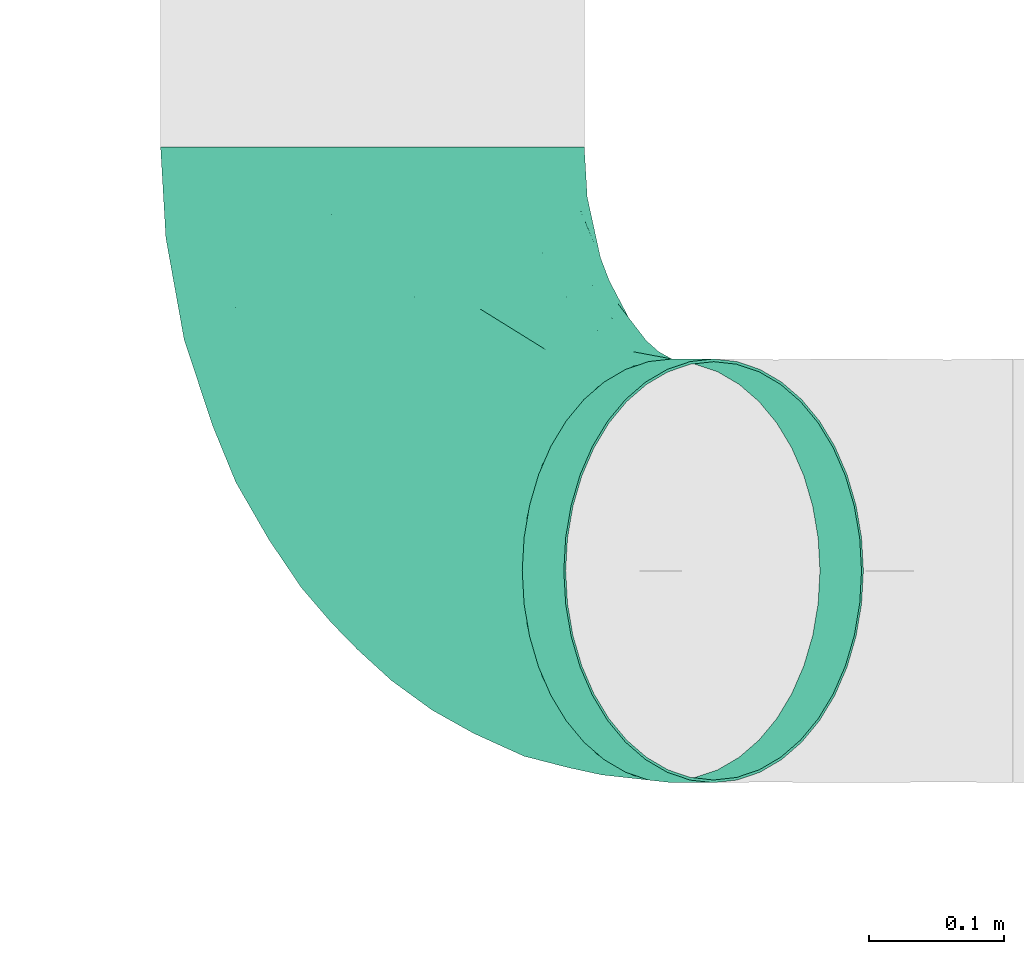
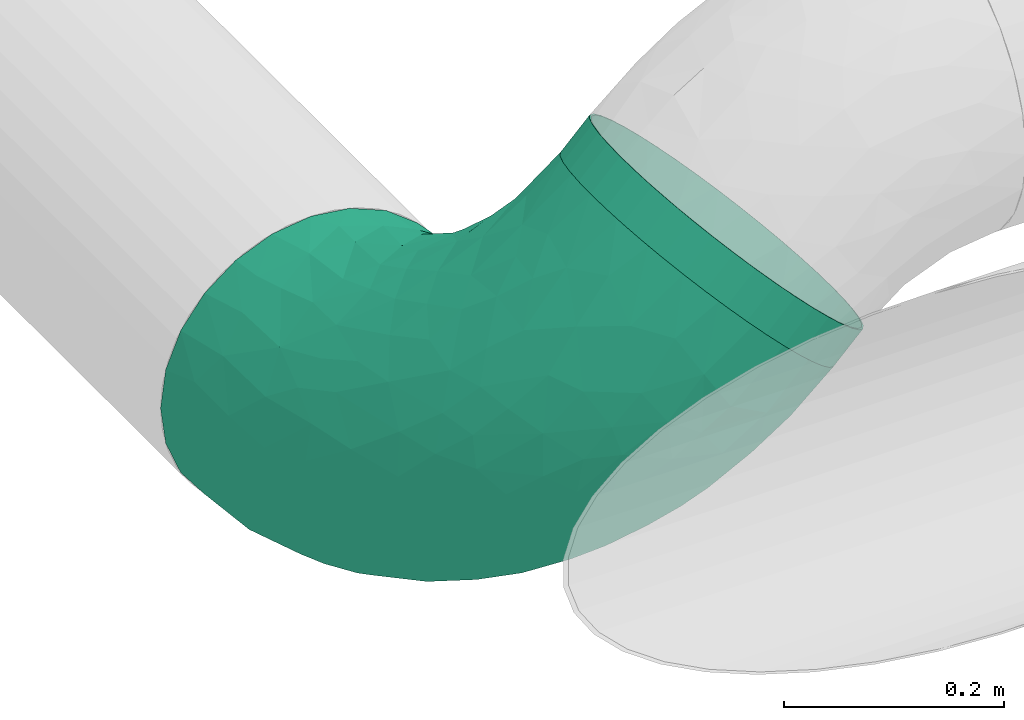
# One storey, part 14 of 36: 1 flow fitting, 1 flow segment.
"""IFC2X3 building model written with IfcOpenShell, lengths in millimetres."""

from ifc_helpers import new_model, entity, si_unit, converted_unit, derived_unit, direction, frame, origin_with_axes, origin_2d_with_axis, place, context, subcontext, project, spatial, hollow_circle, extrude, open_shell, surface_model, source, transform, mapped, type_object, element, save


model = new_model("IFC2X3")

# Units and contexts
model_context = context("Model", 3, precision=0.01, world=frame((0.0, 4.29681676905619e-09, 0.0)), true_north=direction((4.01073788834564e-13, 1.0)))
plan_context = context("Plan", 3, precision=0.01, world=frame((0.0, 4.29681676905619e-09, 0.0)), true_north=direction((4.01073788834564e-13, 1.0)))
body_context = subcontext(model_context, "Body", "Model", "MODEL_VIEW")
ifc_project = project(units=[converted_unit("PLANEANGLEUNIT", "DEGREE", entity("IfcPositiveLengthMeasure", 0.0174532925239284), si_unit("PLANEANGLEUNIT", "RADIAN"), dimensions=[0, 0, 0, 0, 0, 0, 0]), si_unit("AREAUNIT", "SQUARE_METRE"), si_unit("LENGTHUNIT", "METRE", prefix="MILLI"), si_unit("MASSUNIT", "GRAM", prefix="KILO"), si_unit("POWERUNIT", "WATT"), si_unit("PRESSUREUNIT", "PASCAL"), si_unit("FORCEUNIT", "NEWTON", prefix="KILO"), si_unit("ELECTRICCURRENTUNIT", "AMPERE"), si_unit("THERMODYNAMICTEMPERATUREUNIT", "DEGREE_CELSIUS"), si_unit("TIMEUNIT", "SECOND"), si_unit("VOLUMEUNIT", "CUBIC_METRE"), derived_unit("LINEARVELOCITYUNIT", [(si_unit("LENGTHUNIT", "METRE"), 1), (si_unit("TIMEUNIT", "SECOND"), -1)]), derived_unit("VOLUMETRICFLOWRATEUNIT", [(si_unit("VOLUMEUNIT", "CUBIC_METRE"), 1), (si_unit("TIMEUNIT", "SECOND"), -1)]), derived_unit("THERMALTRANSMITTANCEUNIT", [(si_unit("POWERUNIT", "WATT"), 1), (si_unit("THERMODYNAMICTEMPERATUREUNIT", "KELVIN"), -1), (si_unit("AREAUNIT", "SQUARE_METRE"), -1)])], contexts=[model_context, plan_context])

# Site, building, storey
site_placement = place(None, frame((0.0, -4.29681676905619e-09, 0.0), z_axis=(0.0, 0.0, 1.0), x_axis=(1.0, 0.0, 0.0)))
site = spatial("IfcSite", under=ifc_project, at=site_placement, CompositionType="ELEMENT")
building_placement = place(site_placement, frame((0.0, 4.29681676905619e-09, 0.0), z_axis=(0.0, 0.0, 1.0), x_axis=(1.0, 0.0, 0.0)))
building = spatial("IfcBuilding", under=site, at=building_placement, Name="mc-building", CompositionType="ELEMENT")
storey_placement = place(building_placement, frame((0.0, 0.0, 204000.0), z_axis=(0.0, 0.0, 1.0), x_axis=(1.0, 0.0, 0.0)))
storey = spatial("IfcBuildingStorey", under=building, at=storey_placement, Name="Nivå D", CompositionType="ELEMENT", Elevation=204000.0)

# Flow fitting
duct_fitting_type = type_object("IfcDuctFittingType", Name="magicirc_elbow_full_radius_001", PredefinedType="BEND")
shared_shape_1 = source(origin_with_axes(), body_context, "Body", "SurfaceModel", [
    surface_model("IfcShellBasedSurfaceModel", [(-315.0, 78.75, -136.39901), (-315.0, 40.764, -152.13332), (-315.0, 0.0, -157.5), (-315.0, 136.39901, -78.75), (-315.0, -40.764, -152.13332), (-315.0, 111.36932, -111.36932), (-315.0, -157.5, 0.0), (-315.0, -152.13332, 40.764), (-315.0, -111.36932, -111.36932), (-315.0, -152.13332, -40.764), (-315.0, -78.75, -136.39901), (-315.0, -136.39901, -78.75), (-315.0, 152.13332, -40.764), (-315.0, 152.13332, 40.764), (-315.0, 157.5, 0.0), (-315.0, 111.36932, 111.36932), (-315.0, 136.39901, 78.75), (-315.0, 78.75, 136.39901), (-315.0, 40.764, 152.13332), (-315.0, -111.36932, 111.36932), (-315.0, -78.75, 136.39901), (-315.0, -136.39901, 78.75), (-315.0, 0.0, 157.5), (-315.0, -40.764, 152.13332), (0.0, 315.0, -157.5), (-40.764, 315.0, -152.13332), (-78.75, 315.0, -136.39901), (-136.39901, 315.0, -78.75), (40.764, 315.0, -152.13332), (-111.36932, 315.0, -111.36932), (152.13332, 315.0, 40.764), (157.5, 315.0, 0.0), (78.75, 315.0, -136.39901), (152.13332, 315.0, -40.764), (111.36932, 315.0, -111.36932), (136.39901, 315.0, -78.75), (-152.13332, 315.0, -40.764), (-157.5, 315.0, 0.0), (-152.13332, 315.0, 40.764), (-111.36932, 315.0, 111.36932), (-136.39901, 315.0, 78.75), (-78.75, 315.0, 136.39901), (-40.764, 315.0, 152.13332), (136.39901, 315.0, 78.75), (78.75, 315.0, 136.39901), (111.36932, 315.0, 111.36932), (0.0, 315.0, 157.5), (40.764, 315.0, 152.13332), (-275.78673, -154.41385, 0.0), (-241.08472, -151.68274, 0.0), (-252.44974, -146.30358, 46.35165), (-187.41523, 212.23477, 44.18498), (-179.01149, 203.81739, 73.41005), (-160.11821, 234.12054, 71.62405), (-259.10789, -29.29167, 153.83069), (-244.91752, 10.986, 157.47118), (-224.67128, -127.46551, 78.41541), (-275.62484, -128.51884, 88.53098), (-239.58521, -68.78712, 137.8804), (-254.44946, -102.17277, 115.99392), (-204.97493, -89.72227, 117.91769), (-198.20454, -136.55993, 43.33884), (-148.94098, -119.38248, 47.89313), (-158.86886, -110.344, 75.73779), (39.78686, 15.52969, 50.216), (50.02524, 48.95167, 78.24133), (16.56876, 9.92294, 80.17525), (-156.73954, -92.78717, 99.09316), (-102.51279, -78.92253, 85.02595), (-126.30713, -72.38133, 106.65328), (-238.05749, 163.98734, 60.26168), (-237.20027, 147.2055, 88.84905), (-203.90523, 171.05831, 84.0913), (-99.39676, -101.96273, 31.06146), (-68.88048, -86.63056, 0.0), (-64.76022, -82.94549, 27.4714), (-194.76506, -28.32949, 149.7576), (24.59365, -9.6905, 28.83462), (43.18424, 9.08176, 0.0), (-28.15076, 147.0542, 156.53616), (-57.62232, 187.52251, 155.03024), (-72.61201, 106.84341, 157.43567), (-100.48949, -106.00058, 0.0), (-134.73948, -120.1874, 0.0), (-260.04347, 89.83524, 133.7152), (-237.26991, 125.02171, 112.97999), (-280.21215, 121.62894, 103.72153), (68.21928, 256.1901, 139.71452), (77.7719, 189.04071, 123.71299), (102.31809, 243.42041, 114.24978), (67.84442, 49.60938, 45.33346), (67.26053, 37.27147, 0.0), (90.55316, 77.99056, 29.40563), (-274.83669, 157.26153, 40.40661), (-274.67132, 145.30132, 71.02739), (-245.58363, 170.09727, 31.44943), (-158.01119, 282.57516, 29.57871), (-146.25125, 266.67126, 73.17914), (-201.21156, 99.95025, 140.23251), (-168.00076, 243.85557, 42.38557), (-236.25001, 178.601, 0.0), (-214.36106, 188.34463, 36.42869), (-203.63068, 203.63068, 0.0), (-162.86668, 274.236, 0.0), (-27.4795, -1.48331, 110.13927), (-51.96296, -33.03019, 100.52286), (-24.99652, -31.32094, 78.21218), (112.08788, 138.61937, 56.34637), (125.1619, 203.64453, 74.00759), (104.09929, 190.16434, 99.24634), (-263.88667, 52.46181, 150.1563), (6.28024, -18.02273, 54.59081), (-32.47692, -55.63747, 44.65165), (-205.03709, -143.02847, 0.0), (-151.50955, 215.6642, 97.49478), (-169.72394, 180.80582, 105.18325), (-137.80003, 192.65821, 121.95203), (-131.16131, 105.91152, 153.19188), (-137.52005, 135.51481, 144.53218), (-172.83727, 124.27225, 137.32768), (128.84491, 263.57392, 86.20478), (114.57644, 123.92915, 27.08781), (106.00058, 100.48949, 0.0), (131.75884, 176.48085, 38.42713), (143.02847, 205.03709, 0.0), (146.29642, 252.33829, 46.32598), (28.40156, 269.10441, 154.32704), (154.41385, 275.78673, 0.0), (-22.22564, 41.69116, 132.2609), (16.69324, 39.94323, 106.64404), (16.31975, 90.96952, 132.6244), (-52.03205, 254.37949, 150.89421), (153.88948, 315.0, 27.4246), (53.20704, 125.91085, 122.5592), (88.92651, 138.61761, 94.82216), (-274.236, 162.86668, 0.0), (-178.601, 236.25001, 0.0), (-168.81595, 14.50737, 156.32976), (-134.58592, -17.78306, 144.11351), (-96.06327, 24.61756, 149.79173), (-95.47965, 208.90923, 140.49399), (-78.67054, 72.23496, 155.69115), (-107.10628, 82.90122, 157.46314), (-89.91469, 266.26589, 132.78659), (-121.60296, 277.73788, 104.26598), (-11.78088, 260.70674, 157.34621), (-227.60537, 69.76326, 147.71238), (-195.7657, -66.84676, 132.57527), (-17.98791, 203.53807, 157.4841), (-60.53883, -60.45246, 74.88575), (-91.07399, -51.75682, 107.92189), (-197.57809, -110.08585, 94.49261), (-125.81015, 232.97235, 113.88738), (64.56465, 93.01368, 96.19249), (16.83328, 142.0015, 145.94195), (-22.72801, 90.93072, 148.21445), (-99.35511, 153.79, 150.7066), (57.69895, 213.45149, 140.44432), (29.76385, 212.9342, 151.06665), (41.25613, 174.00975, 141.99688), (81.24399, 84.86245, 65.51403), (-80.6457, -84.21175, 54.10058), (-119.42936, -101.75196, 60.63924), (-223.54613, 37.74243, 155.80439), (-168.22432, 88.17595, 150.9854), (-187.52253, 57.62232, 155.03024), (-196.7276, 148.24729, 112.17066), (-145.12836, 64.74974, 156.99994), (-62.1104, 49.45871, 148.77454), (-78.29466, 3.48913, 137.81789), (120.1874, 134.73948, 0.0), (134.3742, 168.98947, 0.0), (-124.07067, 168.52736, 138.84177), (0.02902, 171.95264, 154.42202), (-155.24181, 155.24181, 129.8968), (-73.90672, -22.7783, 121.68574), (-153.67663, -57.07317, 128.87412), (-113.78636, -39.32142, 127.49832), (-115.01886, 47.08507, 156.31037), (86.63056, 68.88048, 0.0), (-9.08176, -43.18424, 0.0), (19.10795, -19.10795, 0.0), (-168.98947, -134.3742, 0.0), (-37.27147, -67.26053, 0.0), (-315.0, -153.88948, 27.4246), (151.68274, 241.08472, 0.0), (-255.73532, 122.56558, -109.04479), (-214.29406, 93.80227, -140.10177), (-163.84149, 105.49727, -146.95596), (-183.82971, 59.98852, -154.94923), (-192.31906, 130.25635, -126.94074), (-214.67055, 186.05827, -42.62213), (-186.74496, 194.75879, -73.69482), (-239.00567, 164.73426, -57.54591), (84.53784, 80.13877, -52.6065), (-261.00954, 11.80363, -157.34285), (-250.44216, -29.83398, -153.37151), (-268.19836, 89.9699, -132.49512), (18.83806, 119.2151, -140.07242), (49.91254, 115.17721, -120.81771), (12.06978, 71.6341, -127.34592), (-248.07962, 169.80005, -27.2725), (-275.80747, 156.39383, -42.62213), (-196.40633, -137.77993, -37.15996), (-145.81166, -120.76195, -39.54807), (29.83399, 250.44214, -153.37151), (-188.19275, 214.15275, -37.45863), (-263.66616, 144.09279, -78.48806), (-189.95567, 165.06391, -102.28747), (43.89547, 65.88084, -99.75423), (78.16417, 108.21393, -90.03536), (-249.49402, 51.93128, -151.25871), (-315.0, -153.88948, -27.4246), (-247.57479, -102.2991, -114.91111), (-172.13573, -94.4716, -103.54526), (-203.64451, -125.1619, -74.00758), (-15.43872, -39.86246, -49.86848), (-49.56463, -70.60072, -36.85181), (-48.59952, -58.5205, -64.27403), (-252.33829, -146.29642, -46.32598), (-150.4225, 203.44707, -106.34238), (-263.57392, -128.84491, -86.20478), (-270.63117, -67.13499, -141.2369), (-215.39001, -68.32685, -135.04042), (102.2991, 247.57479, -114.91111), (-84.30908, -81.65653, -64.10818), (-91.06615, -97.14589, -32.77134), (94.4716, 172.13573, -103.54526), (68.32685, 215.39, -135.04042), (-163.2898, 237.20307, -62.64493), (-225.79476, 144.1207, -99.31867), (-157.79862, 273.70924, -39.50029), (-170.19986, 243.41794, -35.38905), (128.35851, 166.25059, -38.79853), (111.33052, 119.84284, -33.59532), (107.99483, 139.73378, -66.29524), (-159.64305, 170.07843, -119.54587), (-180.81821, -30.01596, -147.51371), (-145.25442, 275.15448, -70.89775), (-89.88491, 264.92544, -132.9879), (-44.17449, 280.59439, -151.79735), (-59.757, 315.0, -144.26616), (9.31111, -25.05617, -28.4426), (53.009, 25.90805, -37.46377), (-11.80362, 261.00954, -157.34285), (67.13499, 270.63117, -141.2369), (-92.6263, 92.62629, -157.49916), (-118.96141, 121.25661, -152.49801), (-64.39537, 156.51032, -156.4116), (-60.182, 62.8574, -151.37938), (-107.20835, 12.13665, -148.56572), (-115.08393, 49.61455, -156.55155), (128.84491, 263.57392, -86.20478), (142.02096, 205.05236, -27.6146), (29.81946, 180.40381, -147.52592), (-13.4149, 195.22557, -157.2133), (146.29642, 252.33829, -46.32598), (-37.40914, -4.7821, -114.20577), (-6.41858, -12.60422, -81.0379), (-50.98723, -38.43118, -94.2951), (-120.93204, -103.51151, -58.28641), (-96.41026, 201.21637, -141.79045), (-123.09172, 250.65074, -110.13461), (-121.89335, 288.06679, -101.98259), (-63.35086, 202.24527, -152.53228), (-222.08454, -6.89853, -156.21984), (125.1619, 203.64451, -74.00758), (-51.91054, 246.85668, -151.45138), (-161.36987, -115.89647, -67.15691), (61.05333, 59.83208, -73.20753), (-114.28437, -21.13487, -137.6727), (-72.08976, 0.21966, -134.09767), (2.17272, 150.10188, -151.66391), (-117.40709, -78.70988, -95.14777), (15.79609, -8.49924, -54.72897), (67.75002, 163.86592, -124.46846), (-163.86592, -67.75002, -124.46846), (-128.02491, 185.93738, -130.75264), (-108.32235, 160.67293, -146.80015), (-225.72616, 27.09586, -156.91411), (-54.59519, 105.68211, -156.33724), (-32.5663, 145.08674, -156.82141), (-145.37889, -8.42453, -149.28396), (-136.98265, 81.1657, -156.07826), (-156.31197, 39.80053, -157.47731), (-31.52679, 31.52678, -132.01846), (-143.53867, 148.20903, -138.06198), (-187.31767, 14.48755, -157.07868), (-19.17494, 108.97533, -150.78529), (2.87334, 23.19904, -105.99183), (32.99767, 23.1947, -73.77925), (-74.47057, -30.27504, -116.67674), (-115.17722, -49.91255, -120.81771), (153.88948, 315.0, -27.4246)], [open_shell([[[0, 1, 2]], [[3, 0, 2]], [[4, 3, 2]], [[5, 0, 3]], [[3, 6, 7]], [[8, 9, 10]], [[4, 10, 6]], [[11, 9, 8]], [[6, 10, 9]], [[6, 3, 4]], [[7, 12, 3]], [[13, 14, 15]], [[16, 13, 15]], [[17, 15, 7]], [[7, 15, 14]], [[17, 7, 18]], [[19, 20, 21]], [[7, 21, 22]], [[23, 22, 20]], [[21, 20, 22]], [[22, 18, 7]], [[12, 7, 14]], [[24, 25, 26]], [[24, 26, 27]], [[24, 27, 28]], [[27, 26, 29]], [[30, 31, 27]], [[32, 33, 34]], [[31, 32, 28]], [[34, 33, 35]], [[33, 32, 31]], [[28, 27, 31]], [[27, 36, 37]], [[27, 38, 39]], [[39, 38, 40]], [[30, 39, 41]], [[39, 30, 27]], [[41, 42, 30]], [[43, 44, 45]], [[46, 43, 30]], [[44, 46, 47]], [[46, 44, 43]], [[30, 42, 46]], [[38, 27, 37]], [[48, 49, 50]], [[51, 52, 53]], [[22, 54, 55]], [[56, 57, 50]], [[58, 59, 60]], [[23, 20, 58]], [[61, 62, 63]], [[64, 65, 66]], [[67, 68, 69]], [[70, 71, 72]], [[20, 59, 58]], [[73, 74, 75]], [[76, 54, 58]], [[64, 77, 78]], [[79, 80, 81]], [[50, 61, 56]], [[82, 73, 83]], [[84, 85, 86]], [[87, 88, 89]], [[22, 55, 18]], [[90, 91, 92]], [[93, 94, 70]], [[70, 95, 93]], [[96, 97, 38]], [[85, 84, 98]], [[99, 51, 53]], [[71, 70, 94]], [[100, 101, 102]], [[96, 103, 99]], [[14, 13, 93]], [[94, 93, 13]], [[64, 90, 65]], [[104, 105, 106]], [[107, 108, 109]], [[17, 110, 84]], [[111, 106, 112]], [[113, 50, 49]], [[20, 19, 59]], [[114, 115, 116]], [[117, 118, 119]], [[89, 44, 87]], [[19, 21, 57]], [[120, 89, 108]], [[121, 92, 122]], [[123, 124, 125]], [[46, 126, 47]], [[125, 127, 30]], [[16, 15, 86]], [[128, 129, 130]], [[120, 43, 45]], [[43, 125, 30]], [[123, 108, 107]], [[42, 41, 131]], [[127, 31, 132]], [[133, 134, 88]], [[93, 95, 135]], [[21, 7, 50]], [[99, 103, 136]], [[137, 138, 139]], [[102, 101, 51]], [[103, 96, 37]], [[140, 80, 131]], [[72, 101, 70]], [[51, 136, 102]], [[141, 81, 142]], [[131, 143, 140]], [[38, 97, 40]], [[39, 40, 144]], [[89, 45, 44]], [[145, 42, 131]], [[16, 94, 13]], [[41, 143, 131]], [[145, 46, 42]], [[15, 17, 84]], [[137, 55, 76]], [[23, 54, 22]], [[146, 84, 110]], [[58, 60, 147]], [[44, 47, 87]], [[88, 134, 109]], [[41, 39, 143]], [[80, 79, 148]], [[149, 150, 68]], [[67, 151, 63]], [[17, 18, 110]], [[84, 146, 98]], [[120, 125, 43]], [[125, 108, 123]], [[50, 7, 48]], [[50, 113, 61]], [[53, 52, 114]], [[144, 97, 152]], [[153, 129, 65]], [[111, 64, 66]], [[57, 59, 19]], [[60, 151, 67]], [[130, 133, 154]], [[129, 128, 104]], [[155, 154, 79]], [[156, 81, 80]], [[126, 87, 47]], [[157, 158, 159]], [[157, 88, 87]], [[160, 153, 65]], [[58, 54, 23]], [[55, 54, 76]], [[161, 162, 73]], [[162, 67, 63]], [[144, 143, 39]], [[143, 152, 140]], [[148, 131, 80]], [[126, 145, 158]], [[18, 55, 110]], [[163, 110, 55]], [[164, 98, 165]], [[98, 119, 166]], [[167, 117, 164]], [[140, 156, 80]], [[138, 137, 76]], [[168, 169, 128]], [[107, 134, 160]], [[89, 109, 108]], [[121, 123, 107]], [[170, 171, 123]], [[89, 120, 45]], [[125, 120, 108]], [[86, 94, 16]], [[94, 86, 71]], [[145, 126, 46]], [[126, 158, 157]], [[116, 140, 152]], [[118, 156, 172]], [[140, 116, 172]], [[81, 156, 117]], [[117, 167, 142]], [[81, 155, 79]], [[155, 130, 154]], [[148, 158, 145]], [[159, 88, 157]], [[173, 158, 148]], [[148, 79, 173]], [[131, 148, 145]], [[95, 70, 101]], [[14, 93, 135]], [[101, 100, 95]], [[135, 95, 100]], [[97, 144, 40]], [[143, 144, 152]], [[166, 71, 85]], [[71, 166, 72]], [[98, 166, 85]], [[166, 115, 72]], [[115, 166, 174]], [[101, 72, 52]], [[116, 115, 174]], [[52, 72, 115]], [[116, 174, 172]], [[114, 116, 152]], [[97, 114, 152]], [[52, 115, 114]], [[118, 172, 174]], [[140, 172, 156]], [[119, 118, 174]], [[156, 118, 117]], [[166, 119, 174]], [[119, 98, 164]], [[128, 130, 155]], [[153, 130, 129]], [[168, 128, 155]], [[104, 106, 66]], [[128, 169, 104]], [[162, 68, 67]], [[175, 150, 105]], [[176, 138, 76]], [[141, 155, 81]], [[139, 169, 168]], [[176, 69, 177]], [[147, 76, 58]], [[177, 150, 175]], [[138, 169, 139]], [[167, 137, 178]], [[137, 165, 163]], [[121, 122, 170]], [[126, 157, 87]], [[92, 121, 107]], [[123, 121, 170]], [[92, 107, 160]], [[90, 92, 160]], [[92, 91, 179]], [[65, 90, 160]], [[114, 97, 53]], [[160, 134, 153]], [[66, 65, 129]], [[134, 133, 153]], [[153, 133, 130]], [[104, 66, 129]], [[111, 66, 106]], [[149, 112, 106]], [[77, 64, 111]], [[161, 73, 75]], [[180, 181, 77]], [[77, 111, 112]], [[91, 90, 78]], [[77, 181, 78]], [[90, 64, 78]], [[97, 99, 53]], [[84, 86, 15]], [[86, 85, 71]], [[62, 61, 182]], [[151, 59, 56]], [[176, 60, 67]], [[59, 151, 60]], [[56, 61, 63]], [[56, 63, 151]], [[162, 63, 62]], [[62, 182, 83]], [[162, 161, 68]], [[149, 68, 161]], [[68, 150, 69]], [[62, 73, 162]], [[73, 82, 74]], [[183, 112, 75]], [[112, 149, 161]], [[149, 106, 105]], [[183, 75, 74]], [[112, 161, 75]], [[177, 69, 150]], [[176, 67, 69]], [[60, 176, 147]], [[76, 147, 176]], [[7, 184, 48]], [[184, 6, 48]], [[127, 125, 185]], [[127, 132, 30]], [[97, 96, 99]], [[37, 96, 38]], [[50, 57, 21]], [[59, 57, 56]], [[136, 51, 99]], [[101, 52, 51]], [[124, 123, 171]], [[124, 185, 125]], [[158, 173, 159]], [[154, 133, 159]], [[88, 159, 133]], [[83, 73, 62]], [[137, 163, 55]], [[146, 163, 165]], [[163, 146, 110]], [[98, 146, 165]], [[167, 164, 165]], [[119, 164, 117]], [[137, 167, 165]], [[167, 178, 142]], [[178, 139, 141]], [[117, 142, 81]], [[178, 141, 142]], [[155, 141, 168]], [[88, 109, 89]], [[107, 109, 134]], [[79, 154, 173]], [[173, 154, 159]], [[175, 104, 169]], [[149, 105, 150]], [[104, 175, 105]], [[177, 169, 138]], [[169, 177, 175]], [[138, 176, 177]], [[141, 139, 168]], [[139, 178, 137]], [[112, 180, 77]], [[179, 122, 92]], [[112, 183, 180]], [[113, 182, 61]], [[186, 5, 3]], [[187, 188, 189]], [[188, 187, 190]], [[191, 192, 193]], [[91, 194, 179]], [[2, 195, 196]], [[0, 5, 197]], [[198, 199, 200]], [[201, 202, 135]], [[182, 203, 204]], [[100, 201, 135]], [[28, 205, 24]], [[191, 102, 206]], [[12, 202, 207]], [[192, 208, 193]], [[209, 199, 210]], [[0, 211, 1]], [[197, 186, 187]], [[9, 48, 212]], [[213, 214, 215]], [[48, 6, 212]], [[216, 217, 218]], [[9, 11, 219]], [[192, 220, 208]], [[8, 221, 11]], [[191, 193, 201]], [[222, 196, 223]], [[10, 4, 222]], [[10, 222, 213]], [[113, 219, 203]], [[204, 82, 83]], [[32, 34, 224]], [[225, 217, 226]], [[8, 10, 213]], [[227, 228, 224]], [[229, 220, 192]], [[136, 206, 102]], [[186, 230, 190]], [[231, 229, 232]], [[233, 234, 235]], [[37, 36, 231]], [[208, 220, 236]], [[237, 223, 196]], [[238, 231, 36]], [[4, 2, 196]], [[239, 26, 240]], [[29, 26, 239]], [[232, 103, 231]], [[240, 241, 25]], [[78, 242, 243]], [[211, 0, 197]], [[24, 244, 25]], [[238, 36, 27]], [[24, 205, 244]], [[28, 245, 205]], [[180, 216, 242]], [[246, 247, 248]], [[14, 135, 202]], [[228, 245, 224]], [[234, 179, 194]], [[234, 194, 235]], [[249, 250, 251]], [[35, 252, 34]], [[28, 32, 245]], [[233, 253, 171]], [[205, 254, 255]], [[127, 185, 256]], [[33, 127, 256]], [[238, 229, 231]], [[230, 186, 207]], [[257, 258, 259]], [[35, 33, 256]], [[226, 260, 225]], [[218, 217, 225]], [[239, 261, 262]], [[263, 27, 29]], [[12, 207, 3]], [[264, 255, 248]], [[189, 211, 187]], [[265, 196, 195]], [[252, 224, 34]], [[227, 224, 266]], [[254, 205, 228]], [[244, 255, 267]], [[2, 1, 195]], [[196, 265, 237]], [[214, 213, 223]], [[221, 213, 215]], [[221, 219, 11]], [[268, 203, 215]], [[253, 185, 124]], [[252, 256, 266]], [[269, 210, 194]], [[227, 235, 210]], [[270, 250, 271]], [[198, 272, 254]], [[225, 273, 259]], [[274, 216, 258]], [[239, 267, 264]], [[263, 239, 262]], [[235, 227, 266]], [[275, 228, 227]], [[223, 276, 214]], [[214, 276, 273]], [[100, 102, 191]], [[202, 201, 193]], [[191, 201, 100]], [[191, 206, 192]], [[206, 229, 192]], [[229, 238, 220]], [[261, 277, 262]], [[277, 261, 278]], [[248, 247, 278]], [[190, 187, 186]], [[202, 193, 207]], [[14, 202, 12]], [[230, 193, 208]], [[3, 207, 186]], [[255, 244, 205]], [[26, 241, 240]], [[1, 211, 195]], [[279, 195, 211]], [[186, 197, 5]], [[211, 197, 187]], [[275, 254, 228]], [[199, 209, 200]], [[246, 249, 251]], [[280, 248, 281]], [[270, 282, 250]], [[237, 270, 276]], [[283, 251, 284]], [[285, 257, 271]], [[193, 230, 207]], [[230, 208, 190]], [[236, 190, 208]], [[188, 190, 286]], [[286, 247, 188]], [[284, 287, 189]], [[283, 188, 247]], [[189, 287, 279]], [[278, 247, 286]], [[283, 247, 246]], [[248, 278, 264]], [[255, 272, 281]], [[251, 283, 246]], [[189, 188, 283]], [[280, 249, 246]], [[250, 282, 284]], [[288, 285, 249]], [[249, 285, 271]], [[213, 221, 8]], [[219, 221, 215]], [[256, 252, 35]], [[224, 252, 266]], [[250, 249, 271]], [[285, 200, 289]], [[263, 238, 27]], [[220, 238, 262]], [[235, 266, 233]], [[210, 235, 194]], [[209, 269, 290]], [[210, 199, 275]], [[289, 209, 290]], [[209, 289, 200]], [[258, 289, 290]], [[257, 285, 289]], [[285, 288, 200]], [[198, 200, 288]], [[274, 258, 290]], [[218, 258, 216]], [[232, 229, 206]], [[37, 231, 103]], [[253, 266, 256]], [[233, 170, 234]], [[272, 198, 288]], [[275, 198, 254]], [[281, 272, 288]], [[255, 254, 272]], [[280, 281, 288]], [[255, 281, 248]], [[249, 280, 288]], [[248, 280, 246]], [[204, 268, 260]], [[74, 226, 217]], [[277, 278, 286]], [[278, 261, 264]], [[236, 277, 286]], [[262, 277, 220]], [[258, 257, 289]], [[122, 179, 234]], [[170, 233, 171]], [[170, 122, 234]], [[291, 257, 259]], [[291, 271, 257]], [[271, 291, 270]], [[276, 270, 292]], [[282, 270, 237]], [[237, 287, 282]], [[282, 287, 284]], [[273, 291, 259]], [[291, 292, 270]], [[266, 253, 233]], [[185, 253, 256]], [[224, 245, 32]], [[205, 245, 228]], [[196, 222, 4]], [[213, 222, 223]], [[243, 274, 290]], [[242, 216, 274]], [[243, 290, 269]], [[78, 181, 242]], [[243, 242, 274]], [[183, 217, 180]], [[242, 181, 180]], [[206, 136, 232]], [[124, 171, 253]], [[103, 232, 136]], [[113, 49, 219]], [[215, 203, 219]], [[48, 219, 49]], [[9, 219, 48]], [[293, 31, 127]], [[127, 33, 293]], [[239, 263, 29]], [[238, 263, 262]], [[226, 204, 260]], [[243, 91, 78]], [[74, 82, 226]], [[180, 217, 216]], [[74, 217, 183]], [[204, 203, 268]], [[260, 268, 273]], [[215, 214, 268]], [[273, 268, 214]], [[225, 259, 218]], [[258, 218, 259]], [[240, 244, 267]], [[244, 240, 25]], [[240, 267, 239]], [[194, 91, 243]], [[210, 275, 227]], [[275, 199, 198]], [[237, 276, 223]], [[273, 276, 292]], [[273, 292, 291]], [[260, 273, 225]], [[277, 236, 220]], [[190, 236, 286]], [[189, 279, 211]], [[265, 279, 287]], [[279, 265, 195]], [[237, 265, 287]], [[239, 264, 261]], [[255, 264, 267]], [[283, 284, 189]], [[284, 251, 250]], [[210, 269, 209]], [[243, 269, 194]], [[82, 204, 226]], [[83, 182, 204]], [[203, 182, 113]]])]),
])
flow_fitting_placement = place(storey_placement, frame((519180.55848, 414221.8494, 2584.12929000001), z_axis=(0.707106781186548, 0.0, -0.707106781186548), x_axis=(-0.707106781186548, 0.0, -0.707106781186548)))
element("IfcFlowFitting", 1, at=flow_fitting_placement, inside=storey, type_object=duct_fitting_type, Name="magicirc_elbow_full_radius_001", context=body_context, shape_type="MappedRepresentation", body=[
    mapped(shared_shape_1, transform((0.0, 0.0, 0.0), scale=1.0)),
])

# Flow segment
duct_segment_type = type_object("IfcDuctSegmentType", Name="KK001T - Spiro kanaler, Forsinket stål", PredefinedType="RIGIDSEGMENT")
shared_shape_2 = source(origin_with_axes(), body_context, "Body", "SweptSolid", [
    extrude(hollow_circle(Radius=157.5, WallThickness=2.0, at=origin_2d_with_axis()), frame((0.0, 0.0, 0.0), z_axis=(1.0, 0.0, 0.0), x_axis=(0.0, 1.0, 0.0)), (0.0, 0.0, 1.0), 43.7),
])
flow_segment_placement = place(storey_placement, frame((519403.29712, 414221.8494, 2806.86793000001), z_axis=(-0.707106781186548, 0.0, 0.707106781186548), x_axis=(0.707106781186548, 0.0, 0.707106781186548)))
element("IfcFlowSegment", 2, at=flow_segment_placement, inside=storey, type_object=duct_segment_type, Name="KK001T - Spiro kanaler, Forsinket stål", context=body_context, shape_type="MappedRepresentation", body=[
    mapped(shared_shape_2, transform((0.0, 0.0, 0.0), scale=1.0)),
])

save(model, "model.ifc")
